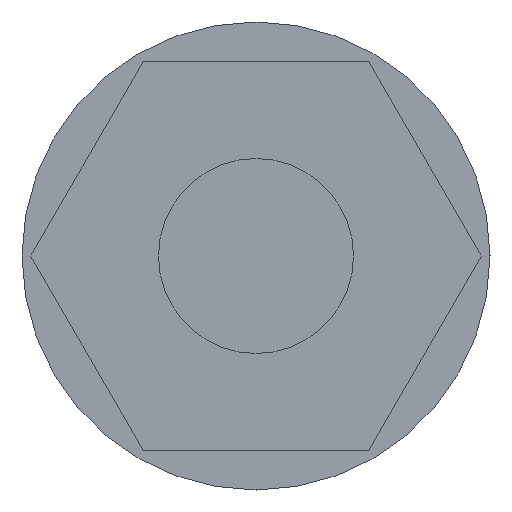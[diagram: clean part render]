
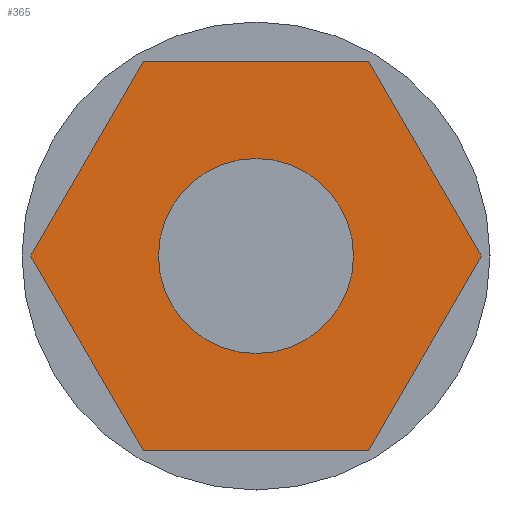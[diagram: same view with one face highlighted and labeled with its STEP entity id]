
A CAD part, left-side view. The second image highlights one B-rep face of the part: STEP entity #365.
In plain terms, the highlighted planar face has unit normal (-1, 0, 0).
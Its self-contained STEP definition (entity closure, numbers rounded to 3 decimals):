
#142=CARTESIAN_POINT('',(-20.11,2.5,0.));
#143=VERTEX_POINT('',#142);
#144=CARTESIAN_POINT('',(-20.11,0.0,0.0));
#145=DIRECTION('',(1.0,0.0,0.0));
#146=DIRECTION('',(0.0,-1.0,0.0));
#147=AXIS2_PLACEMENT_3D('',#144,#145,#146);
#148=CIRCLE('',#147,2.5);
#149=EDGE_CURVE('',#143,#143,#148,.T.);
#168=CARTESIAN_POINT('',(-20.11,-2.887,5.));
#169=VERTEX_POINT('',#168);
#170=CARTESIAN_POINT('',(-20.11,-5.774,0.));
#171=VERTEX_POINT('',#170);
#172=CARTESIAN_POINT('',(-20.11,-2.887,5.));
#173=DIRECTION('',(0.0,-0.5,-0.866));
#174=VECTOR('',#173,5.774);
#175=LINE('',#172,#174);
#176=EDGE_CURVE('',#169,#171,#175,.T.);
#208=CARTESIAN_POINT('',(-20.11,-2.887,-5.));
#209=VERTEX_POINT('',#208);
#210=CARTESIAN_POINT('',(-20.11,-5.774,0.));
#211=DIRECTION('',(0.0,0.5,-0.866));
#212=VECTOR('',#211,5.774);
#213=LINE('',#210,#212);
#214=EDGE_CURVE('',#171,#209,#213,.T.);
#239=CARTESIAN_POINT('',(-20.11,2.887,-5.0));
#240=VERTEX_POINT('',#239);
#241=CARTESIAN_POINT('',(-20.11,-2.887,-5.));
#242=DIRECTION('',(0.0,1.0,0.0));
#243=VECTOR('',#242,5.774);
#244=LINE('',#241,#243);
#245=EDGE_CURVE('',#209,#240,#244,.T.);
#270=CARTESIAN_POINT('',(-20.11,5.774,0.));
#271=VERTEX_POINT('',#270);
#272=CARTESIAN_POINT('',(-20.11,2.887,-5.));
#273=DIRECTION('',(0.0,0.5,0.866));
#274=VECTOR('',#273,5.774);
#275=LINE('',#272,#274);
#276=EDGE_CURVE('',#240,#271,#275,.T.);
#301=CARTESIAN_POINT('',(-20.11,2.887,5.0));
#302=VERTEX_POINT('',#301);
#303=CARTESIAN_POINT('',(-20.11,5.774,0.));
#304=DIRECTION('',(0.0,-0.5,0.866));
#305=VECTOR('',#304,5.774);
#306=LINE('',#303,#305);
#307=EDGE_CURVE('',#271,#302,#306,.T.);
#332=CARTESIAN_POINT('',(-20.11,2.887,5.0));
#333=DIRECTION('',(0.0,-1.0,0.0));
#334=VECTOR('',#333,5.774);
#335=LINE('',#332,#334);
#336=EDGE_CURVE('',#302,#169,#335,.T.);
#349=CARTESIAN_POINT('',(-20.11,0.,0.));
#350=DIRECTION('',(1.0,0.0,0.0));
#351=DIRECTION('',(0.0,0.0,-1.0));
#352=AXIS2_PLACEMENT_3D('',#349,#350,#351);
#353=PLANE('',#352);
#354=ORIENTED_EDGE('',*,*,#176,.F.);
#355=ORIENTED_EDGE('',*,*,#336,.F.);
#356=ORIENTED_EDGE('',*,*,#307,.F.);
#357=ORIENTED_EDGE('',*,*,#276,.F.);
#358=ORIENTED_EDGE('',*,*,#245,.F.);
#359=ORIENTED_EDGE('',*,*,#214,.F.);
#360=EDGE_LOOP('',(#354,#355,#356,#357,#358,#359));
#361=FACE_OUTER_BOUND('',#360,.T.);
#362=ORIENTED_EDGE('',*,*,#149,.T.);
#363=EDGE_LOOP('',(#362));
#364=FACE_BOUND('',#363,.T.);
#365=ADVANCED_FACE('',(#361,#364),#353,.F.);
